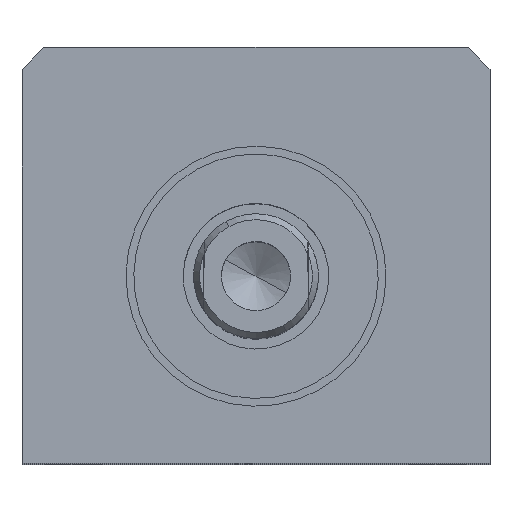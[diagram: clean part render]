
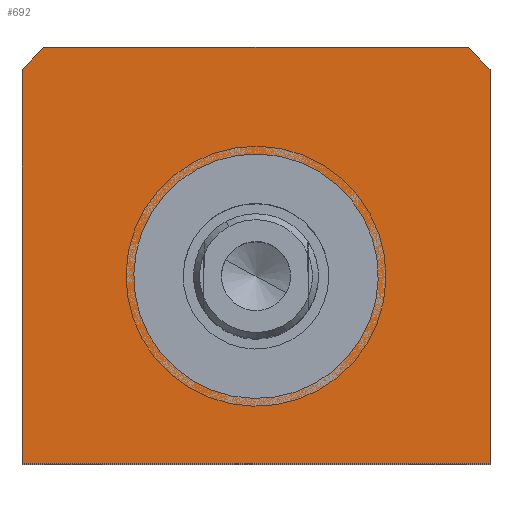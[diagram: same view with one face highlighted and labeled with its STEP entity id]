
A CAD part, top view. The second image highlights one B-rep face of the part: STEP entity #692.
In plain terms, the highlighted planar face has unit normal (0, 0, 1).
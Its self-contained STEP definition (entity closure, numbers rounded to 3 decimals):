
#119=CARTESIAN_POINT('Vertex',(22.5,-18.,63.)) ;
#124=CARTESIAN_POINT('Line Origine',(0.,-18.,63.)) ;
#128=CARTESIAN_POINT('Vertex',(-22.5,-18.,63.)) ;
#371=CARTESIAN_POINT('Vertex',(-5.633,10.312,63.)) ;
#378=CARTESIAN_POINT('Vertex',(5.633,-10.312,63.)) ;
#381=CARTESIAN_POINT('Axis2P3D Location',(0.,0.,63.)) ;
#393=CARTESIAN_POINT('Axis2P3D Location',(0.,0.,63.)) ;
#642=CARTESIAN_POINT('Axis2P3D Location',(0.,30.,63.)) ;
#647=CARTESIAN_POINT('Line Origine',(0.,22.,63.)) ;
#651=CARTESIAN_POINT('Vertex',(20.396,22.,63.)) ;
#653=CARTESIAN_POINT('Vertex',(-20.396,22.,63.)) ;
#656=CARTESIAN_POINT('Axis2P3D Location',(0.,0.,63.)) ;
#660=CARTESIAN_POINT('Vertex',(-22.5,19.843,63.)) ;
#663=CARTESIAN_POINT('Line Origine',(-22.5,0.922,63.)) ;
#668=CARTESIAN_POINT('Line Origine',(22.5,0.922,63.)) ;
#672=CARTESIAN_POINT('Vertex',(22.5,19.843,63.)) ;
#675=CARTESIAN_POINT('Axis2P3D Location',(0.,0.,63.)) ;
#125=DIRECTION('Vector Direction',(-1.,0.,0.)) ;
#382=DIRECTION('Axis2P3D Direction',(0.,0.,1.)) ;
#394=DIRECTION('Axis2P3D Direction',(0.,0.,1.)) ;
#643=DIRECTION('Axis2P3D Direction',(0.,0.,1.)) ;
#644=DIRECTION('Axis2P3D XDirection',(1.,0.,0.)) ;
#648=DIRECTION('Vector Direction',(1.,0.,0.)) ;
#657=DIRECTION('Axis2P3D Direction',(0.,0.,1.)) ;
#664=DIRECTION('Vector Direction',(0.,-1.,0.)) ;
#669=DIRECTION('Vector Direction',(0.,1.,0.)) ;
#676=DIRECTION('Axis2P3D Direction',(0.,0.,1.)) ;
#383=AXIS2_PLACEMENT_3D('Circle Axis2P3D',#381,#382,$) ;
#395=AXIS2_PLACEMENT_3D('Circle Axis2P3D',#393,#394,$) ;
#645=AXIS2_PLACEMENT_3D('Plane Axis2P3D',#642,#643,#644) ;
#658=AXIS2_PLACEMENT_3D('Circle Axis2P3D',#656,#657,$) ;
#677=AXIS2_PLACEMENT_3D('Circle Axis2P3D',#675,#676,$) ;
#681=ORIENTED_EDGE('',*,*,#655,.T.) ;
#682=ORIENTED_EDGE('',*,*,#662,.T.) ;
#683=ORIENTED_EDGE('',*,*,#667,.T.) ;
#684=ORIENTED_EDGE('',*,*,#130,.T.) ;
#685=ORIENTED_EDGE('',*,*,#674,.T.) ;
#686=ORIENTED_EDGE('',*,*,#679,.T.) ;
#689=ORIENTED_EDGE('',*,*,#397,.F.) ;
#690=ORIENTED_EDGE('',*,*,#385,.F.) ;
#691=FACE_BOUND('',#688,.T.) ;
#126=VECTOR('Line Direction',#125,1.) ;
#649=VECTOR('Line Direction',#648,1.) ;
#665=VECTOR('Line Direction',#664,1.) ;
#670=VECTOR('Line Direction',#669,1.) ;
#692=ADVANCED_FACE('PartBody',(#687,#691),#646,.T.) ;
#384=CIRCLE('generated circle',#383,11.75) ;
#396=CIRCLE('generated circle',#395,11.75) ;
#659=CIRCLE('generated circle',#658,30.) ;
#678=CIRCLE('generated circle',#677,30.) ;
#130=EDGE_CURVE('',#129,#120,#127,.F.) ;
#385=EDGE_CURVE('',#379,#372,#384,.T.) ;
#397=EDGE_CURVE('',#372,#379,#396,.T.) ;
#655=EDGE_CURVE('',#652,#654,#650,.F.) ;
#662=EDGE_CURVE('',#654,#661,#659,.T.) ;
#667=EDGE_CURVE('',#661,#129,#666,.T.) ;
#674=EDGE_CURVE('',#120,#673,#671,.T.) ;
#679=EDGE_CURVE('',#673,#652,#678,.T.) ;
#680=EDGE_LOOP('',(#681,#682,#683,#684,#685,#686)) ;
#688=EDGE_LOOP('',(#689,#690)) ;
#687=FACE_OUTER_BOUND('',#680,.T.) ;
#127=LINE('Line',#124,#126) ;
#650=LINE('Line',#647,#649) ;
#666=LINE('Line',#663,#665) ;
#671=LINE('Line',#668,#670) ;
#646=PLANE('Plane',#645) ;
#120=VERTEX_POINT('',#119) ;
#129=VERTEX_POINT('',#128) ;
#372=VERTEX_POINT('',#371) ;
#379=VERTEX_POINT('',#378) ;
#652=VERTEX_POINT('',#651) ;
#654=VERTEX_POINT('',#653) ;
#661=VERTEX_POINT('',#660) ;
#673=VERTEX_POINT('',#672) ;
